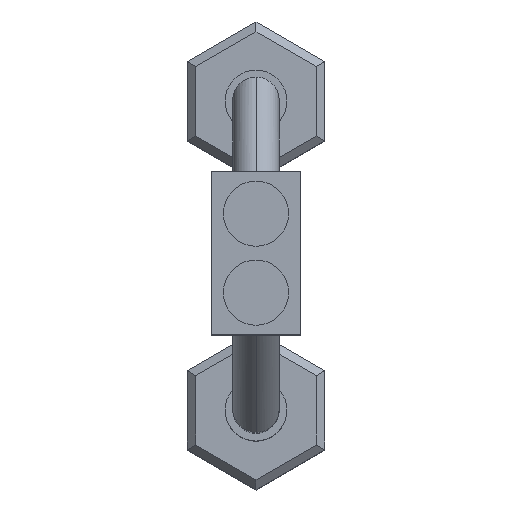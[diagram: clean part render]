
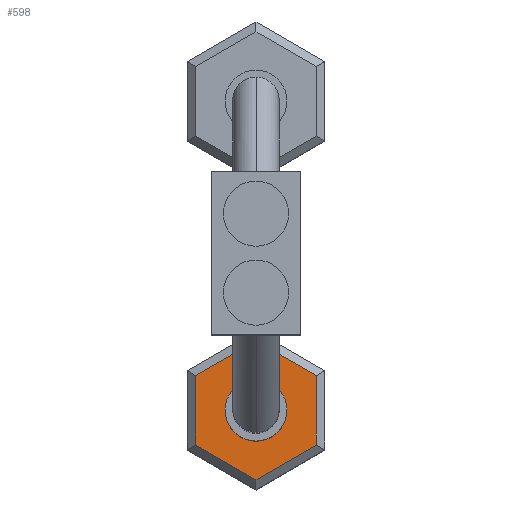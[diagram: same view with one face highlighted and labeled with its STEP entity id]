
A CAD part, top view. The second image highlights one B-rep face of the part: STEP entity #598.
In plain terms, the highlighted planar face has unit normal (0, 0, 1) as drawn and (-1, 0, 0) by its records, which use the part's own axes.
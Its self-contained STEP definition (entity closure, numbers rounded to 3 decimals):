
#482 = EDGE_CURVE ( 'NONE', #483, #484, #1563, .T. ) ;
#483 = VERTEX_POINT ( 'NONE', #1615 ) ;
#484 = VERTEX_POINT ( 'NONE', #1614 ) ;
#520 = EDGE_LOOP ( 'NONE', ( #521, #528, #531, #534, #537, #540 ) ) ;
#521 = ORIENTED_EDGE ( 'NONE', *, *, #526, .T. ) ;
#522 = VERTEX_POINT ( 'NONE', #1626 ) ;
#526 = EDGE_CURVE ( 'NONE', #522, #527, #1620, .T. ) ;
#527 = VERTEX_POINT ( 'NONE', #1680 ) ;
#528 = ORIENTED_EDGE ( 'NONE', *, *, #529, .T. ) ;
#529 = EDGE_CURVE ( 'NONE', #527, #530, #1679, .T. ) ;
#530 = VERTEX_POINT ( 'NONE', #1675 ) ;
#531 = ORIENTED_EDGE ( 'NONE', *, *, #532, .T. ) ;
#532 = EDGE_CURVE ( 'NONE', #530, #533, #1674, .T. ) ;
#533 = VERTEX_POINT ( 'NONE', #1670 ) ;
#534 = ORIENTED_EDGE ( 'NONE', *, *, #535, .T. ) ;
#535 = EDGE_CURVE ( 'NONE', #533, #536, #1669, .T. ) ;
#536 = VERTEX_POINT ( 'NONE', #1665 ) ;
#537 = ORIENTED_EDGE ( 'NONE', *, *, #538, .T. ) ;
#538 = EDGE_CURVE ( 'NONE', #536, #539, #1664, .T. ) ;
#539 = VERTEX_POINT ( 'NONE', #1660 ) ;
#540 = ORIENTED_EDGE ( 'NONE', *, *, #582, .T. ) ;
#541 = EDGE_LOOP ( 'NONE', ( #583, #584 ) ) ;
#582 = EDGE_CURVE ( 'NONE', #539, #522, #1784, .T. ) ;
#583 = ORIENTED_EDGE ( 'NONE', *, *, #482, .F. ) ;
#584 = ORIENTED_EDGE ( 'NONE', *, *, #585, .F. ) ;
#585 = EDGE_CURVE ( 'NONE', #484, #483, #1780, .T. ) ;
#598 = ADVANCED_FACE ( 'NONE', ( #1753, #1752 ), #1751, .F. ) ;
#1562 = CARTESIAN_POINT ( 'NONE',  ( 89., 0., 9. ) ) ;
#1563 = CIRCLE ( 'NONE', #1618, 1.8 ) ;
#1614 = CARTESIAN_POINT ( 'NONE',  ( 89., -1.8, 9. ) ) ;
#1615 = CARTESIAN_POINT ( 'NONE',  ( 89., 1.8, 9. ) ) ;
#1616 = DIRECTION ( 'NONE',  ( 0., -1., 0. ) ) ;
#1617 = DIRECTION ( 'NONE',  ( -1., 0., 0. ) ) ;
#1618 = AXIS2_PLACEMENT_3D ( 'NONE', #1562, #1617, #1616 ) ;
#1619 = CARTESIAN_POINT ( 'NONE',  ( 89., 4.25, 15.495 ) ) ;
#1620 = LINE ( 'NONE', #1619, #1682 ) ;
#1626 = CARTESIAN_POINT ( 'NONE',  ( 89., -3.5, 11.021 ) ) ;
#1660 = CARTESIAN_POINT ( 'NONE',  ( 89., -3.5, 6.979 ) ) ;
#1661 = DIRECTION ( 'NONE',  ( 0., -0.866, 0.5 ) ) ;
#1662 = VECTOR ( 'NONE', #1661, 1000. ) ;
#1663 = CARTESIAN_POINT ( 'NONE',  ( 89., -1.75, 5.969 ) ) ;
#1664 = LINE ( 'NONE', #1663, #1662 ) ;
#1665 = CARTESIAN_POINT ( 'NONE',  ( 89., 0., 4.959 ) ) ;
#1666 = DIRECTION ( 'NONE',  ( 0., -0.866, -0.5 ) ) ;
#1667 = VECTOR ( 'NONE', #1666, 1000. ) ;
#1668 = CARTESIAN_POINT ( 'NONE',  ( 89., 7.75, 9.433 ) ) ;
#1669 = LINE ( 'NONE', #1668, #1667 ) ;
#1670 = CARTESIAN_POINT ( 'NONE',  ( 89., 3.5, 6.979 ) ) ;
#1671 = DIRECTION ( 'NONE',  ( 0., 0., -1. ) ) ;
#1672 = VECTOR ( 'NONE', #1671, 1000. ) ;
#1673 = CARTESIAN_POINT ( 'NONE',  ( 89., 3.5, 15.928 ) ) ;
#1674 = LINE ( 'NONE', #1673, #1672 ) ;
#1675 = CARTESIAN_POINT ( 'NONE',  ( 89., 3.5, 11.021 ) ) ;
#1676 = DIRECTION ( 'NONE',  ( 0., 0.866, -0.5 ) ) ;
#1677 = VECTOR ( 'NONE', #1676, 1000. ) ;
#1678 = CARTESIAN_POINT ( 'NONE',  ( 89., 1.75, 12.031 ) ) ;
#1679 = LINE ( 'NONE', #1678, #1677 ) ;
#1680 = CARTESIAN_POINT ( 'NONE',  ( 89., 0., 13.041 ) ) ;
#1681 = DIRECTION ( 'NONE',  ( 0., 0.866, 0.5 ) ) ;
#1682 = VECTOR ( 'NONE', #1681, 1000. ) ;
#1751 = PLANE ( 'NONE',  #1815 ) ;
#1752 = FACE_BOUND ( 'NONE', #541, .T. ) ;
#1753 = FACE_OUTER_BOUND ( 'NONE', #520, .T. ) ;
#1776 = DIRECTION ( 'NONE',  ( 0., -1., 0. ) ) ;
#1777 = DIRECTION ( 'NONE',  ( -1., 0., 0. ) ) ;
#1778 = CARTESIAN_POINT ( 'NONE',  ( 89., 0., 9. ) ) ;
#1779 = AXIS2_PLACEMENT_3D ( 'NONE', #1778, #1777, #1776 ) ;
#1780 = CIRCLE ( 'NONE', #1779, 1.8 ) ;
#1781 = DIRECTION ( 'NONE',  ( 0., 0., 1. ) ) ;
#1782 = VECTOR ( 'NONE', #1781, 1000. ) ;
#1783 = CARTESIAN_POINT ( 'NONE',  ( 89., -3.5, 15.928 ) ) ;
#1784 = LINE ( 'NONE', #1783, #1782 ) ;
#1812 = DIRECTION ( 'NONE',  ( 0., 1., 0. ) ) ;
#1813 = DIRECTION ( 'NONE',  ( 1., 0., 0. ) ) ;
#1814 = CARTESIAN_POINT ( 'NONE',  ( 89., 4., 15.928 ) ) ;
#1815 = AXIS2_PLACEMENT_3D ( 'NONE', #1814, #1813, #1812 ) ;
